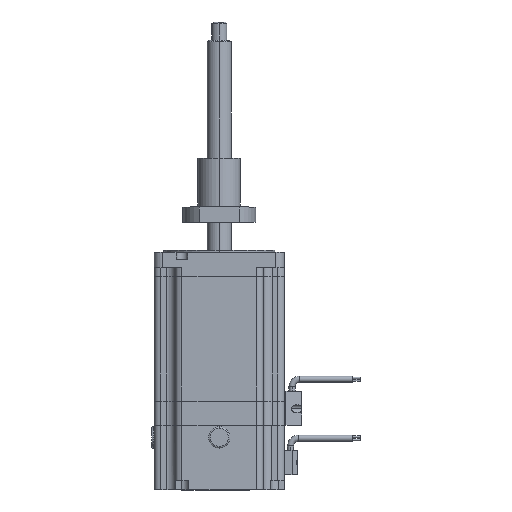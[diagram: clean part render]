
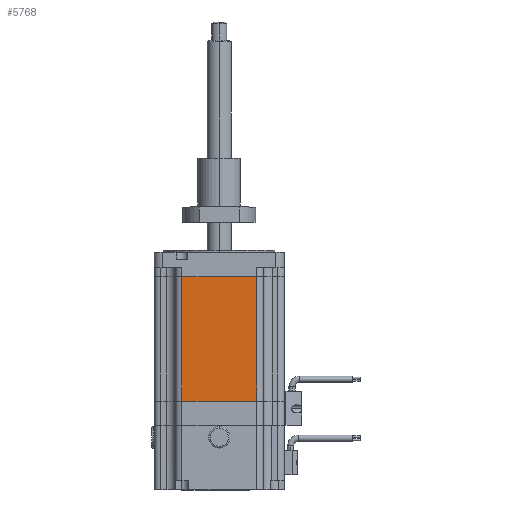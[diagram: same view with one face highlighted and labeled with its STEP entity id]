
A CAD part, top view. The second image highlights one B-rep face of the part: STEP entity #5768.
In plain terms, the highlighted planar face has unit normal (0, 0, 1).
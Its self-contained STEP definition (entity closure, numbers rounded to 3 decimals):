
#122 = CARTESIAN_POINT ( 'NONE',  ( 37.3, -87.992, 43. ) ) ;
#991 = DIRECTION ( 'NONE',  ( -1., 0., 0. ) ) ;
#1136 = CARTESIAN_POINT ( 'NONE',  ( 24.65, -104., 43. ) ) ;
#1445 = LINE ( 'NONE', #122, #3171 ) ;
#1461 = VERTEX_POINT ( 'NONE', #5921 ) ;
#1605 = FACE_OUTER_BOUND ( 'NONE', #9560, .T. ) ;
#1717 = VERTEX_POINT ( 'NONE', #9139 ) ;
#1923 = EDGE_CURVE ( 'NONE', #1717, #10142, #10502, .T. ) ;
#2033 = LINE ( 'NONE', #6270, #9809 ) ;
#2168 = ORIENTED_EDGE ( 'NONE', *, *, #5302, .F. ) ;
#3171 = VECTOR ( 'NONE', #991, 1000. ) ;
#3448 = AXIS2_PLACEMENT_3D ( 'NONE', #6532, #10871, #9971 ) ;
#3524 = EDGE_CURVE ( 'NONE', #10142, #10574, #2033, .T. ) ;
#4546 = DIRECTION ( 'NONE',  ( 1., 0., 0. ) ) ;
#4934 = ORIENTED_EDGE ( 'NONE', *, *, #1923, .F. ) ;
#5302 = EDGE_CURVE ( 'NONE', #1461, #1717, #1445, .T. ) ;
#5768 = ADVANCED_FACE ( 'NONE', ( #1605 ), #8282, .F. ) ;
#5921 = CARTESIAN_POINT ( 'NONE',  ( 24.65, -87.992, 43. ) ) ;
#6270 = CARTESIAN_POINT ( 'NONE',  ( 37.3, -6.008, 43. ) ) ;
#6416 = CARTESIAN_POINT ( 'NONE',  ( -24.65, -6.008, 43. ) ) ;
#6532 = CARTESIAN_POINT ( 'NONE',  ( 37.3, 10., 43. ) ) ;
#6889 = LINE ( 'NONE', #1136, #11161 ) ;
#8282 = PLANE ( 'NONE',  #3448 ) ;
#8860 = EDGE_CURVE ( 'NONE', #1461, #10574, #6889, .T. ) ;
#8873 = ORIENTED_EDGE ( 'NONE', *, *, #8860, .T. ) ;
#9139 = CARTESIAN_POINT ( 'NONE',  ( -24.65, -87.992, 43. ) ) ;
#9471 = CARTESIAN_POINT ( 'NONE',  ( 24.65, -6.008, 43. ) ) ;
#9550 = VECTOR ( 'NONE', #9619, 1000. ) ;
#9560 = EDGE_LOOP ( 'NONE', ( #2168, #8873, #9676, #4934 ) ) ;
#9580 = CARTESIAN_POINT ( 'NONE',  ( -24.65, -104., 43. ) ) ;
#9619 = DIRECTION ( 'NONE',  ( 0., 1., 0. ) ) ;
#9676 = ORIENTED_EDGE ( 'NONE', *, *, #3524, .F. ) ;
#9809 = VECTOR ( 'NONE', #4546, 1000. ) ;
#9971 = DIRECTION ( 'NONE',  ( -1., 0., 0. ) ) ;
#10142 = VERTEX_POINT ( 'NONE', #6416 ) ;
#10502 = LINE ( 'NONE', #9580, #9550 ) ;
#10574 = VERTEX_POINT ( 'NONE', #9471 ) ;
#10679 = DIRECTION ( 'NONE',  ( 0., 1., 0. ) ) ;
#10871 = DIRECTION ( 'NONE',  ( 0., 0., -1. ) ) ;
#11161 = VECTOR ( 'NONE', #10679, 1000. ) ;
